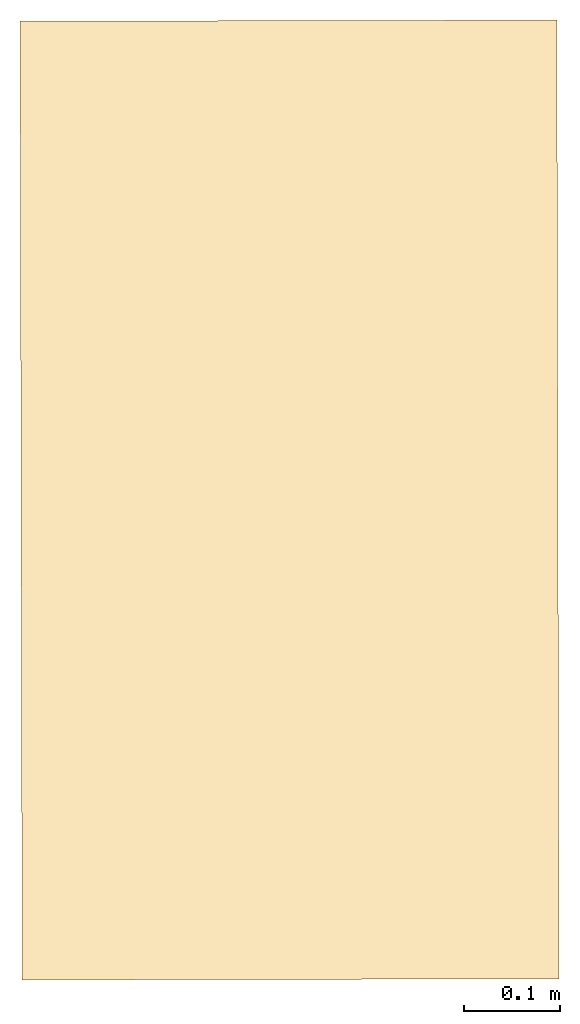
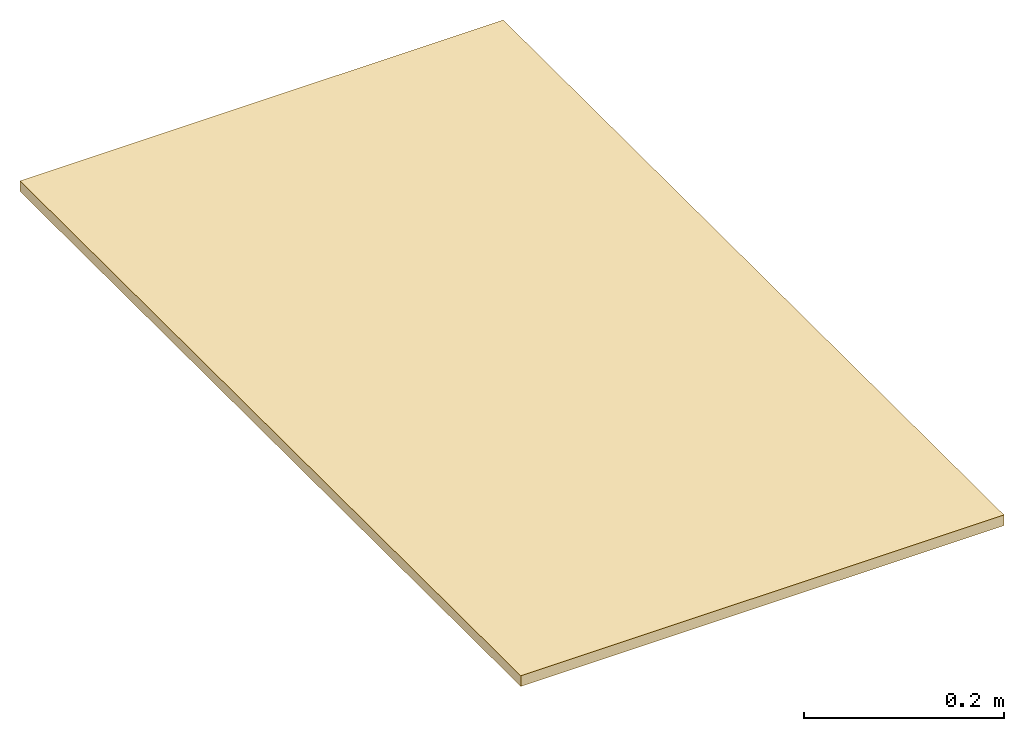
# One storey: 1 covering.
"""IFC4 building model written with IfcOpenShell, lengths in centimetres."""

from ifc_helpers import new_model, entity, si_unit, converted_unit, direction, frame, origin, place, context, subcontext, project, spatial, indexed_curve, outline, extrude, material, type_object, element, save


model = new_model("IFC4")

# Units and contexts
model_context = context("Model", 3, precision=0.001, world=origin(), true_north=direction((0.0, 1.0)))
body_context = subcontext(model_context, "Body", "Model", "MODEL_VIEW")
ifc_project = project(units=[si_unit("LENGTHUNIT", "METRE", prefix="CENTI"), si_unit("AREAUNIT", "SQUARE_METRE"), si_unit("VOLUMEUNIT", "CUBIC_METRE"), converted_unit("PLANEANGLEUNIT", "DEGREE", entity("IfcPlaneAngleMeasure", 0.017453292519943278), si_unit("PLANEANGLEUNIT", "RADIAN"), dimensions=[0, 0, 0, 0, 0, 0, 0])], contexts=[model_context])

# Site, building, storey
site_placement = place(None, origin())
site = spatial("IfcSite", under=ifc_project, at=site_placement, Name="Default", CompositionType="ELEMENT")
building_placement = place(site_placement, origin())
building = spatial("IfcBuilding", under=site, at=building_placement, CompositionType="ELEMENT")
storey_placement = place(building_placement, frame((0.0, 0.0, -612.0)))
storey = spatial("IfcBuildingStorey", under=building, at=storey_placement, Name="B2__ABOVE Slab", CompositionType="ELEMENT", Elevation=-612.0000000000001)

# Covering
ifc_material = material(Name="_WLL & CLG FINISHES__Lime - CEM Plaster", Category="Unassigned")
covering_type = type_object("IfcCoveringType", Name="Ceilings : Compound Ceiling : clg__INT COVERING__, GB 1.5cm__12.5(A) 3", PredefinedType="CEILING")
covering_placement = place(storey_placement, frame((2344.3857284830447, 1207.296401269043, 591.0)))
element("IfcCovering", 1, at=covering_placement, inside=storey, type_object=covering_type, material=ifc_material, Name="Ceilings : Compound Ceiling : clg__INT COVERING__, GB 1.5cm__12.5(A) 3", PredefinedType="CEILING", context=body_context, shape_type="SweptSolid", body=[
    extrude(outline(indexed_curve([(-28.000009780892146, -50.000000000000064), (28.00000978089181, -50.000000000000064), (28.000009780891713, 50.000000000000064), (-28.000009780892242, 50.000000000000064), (-28.000009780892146, -50.000000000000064)], self_intersect=False)), frame((28.110513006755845, 50.061797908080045, 0.0), z_axis=(0.0, 0.0, 1.0), x_axis=(0.9999975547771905, 0.0022114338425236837, 0.0)), (0.0, 0.0, 1.0), 1.299999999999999),
])

save(model, "model.ifc")
